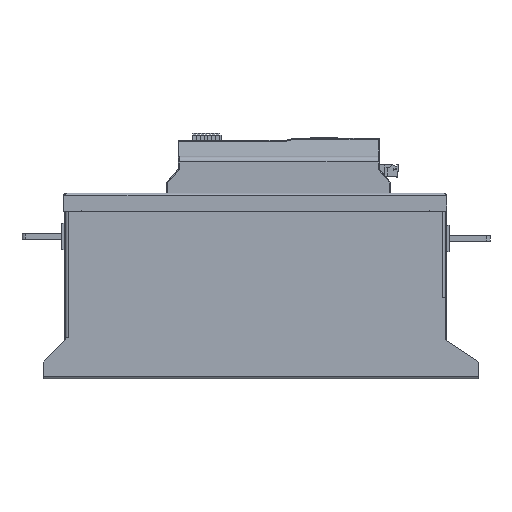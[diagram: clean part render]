
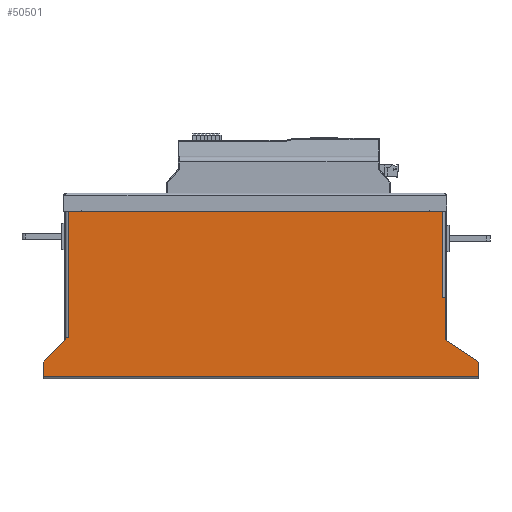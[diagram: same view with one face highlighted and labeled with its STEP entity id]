
A CAD part, left-side view. The second image highlights one B-rep face of the part: STEP entity #50501.
In plain terms, the highlighted planar face has unit normal (-1, 0, 0).
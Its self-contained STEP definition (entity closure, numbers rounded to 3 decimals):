
#801 = DIRECTION ( 'NONE',  ( 0., 0., 1. ) ) ;
#2206 = CARTESIAN_POINT ( 'NONE',  ( 0., -345.6, 148.783 ) ) ;
#2719 = VERTEX_POINT ( 'NONE', #123641 ) ;
#3133 = LINE ( 'NONE', #50897, #117432 ) ;
#4872 = CARTESIAN_POINT ( 'NONE',  ( 0., -34.4, 148.75 ) ) ;
#5015 = VECTOR ( 'NONE', #56551, 1000. ) ;
#6871 = ORIENTED_EDGE ( 'NONE', *, *, #62354, .T. ) ;
#7263 = CARTESIAN_POINT ( 'NONE',  ( 0., -390., 1.2 ) ) ;
#7903 = LINE ( 'NONE', #78174, #57015 ) ;
#8072 = VECTOR ( 'NONE', #29598, 1000. ) ;
#8312 = LINE ( 'NONE', #47650, #57761 ) ;
#9977 = CARTESIAN_POINT ( 'NONE',  ( 0., -345.6, 148.75 ) ) ;
#10301 = ORIENTED_EDGE ( 'NONE', *, *, #124813, .T. ) ;
#11557 = ORIENTED_EDGE ( 'NONE', *, *, #119459, .T. ) ;
#12361 = PLANE ( 'NONE',  #53805 ) ;
#15228 = EDGE_CURVE ( 'NONE', #61955, #49554, #91236, .T. ) ;
#15390 = VERTEX_POINT ( 'NONE', #58283 ) ;
#17099 = VERTEX_POINT ( 'NONE', #105182 ) ;
#17949 = ORIENTED_EDGE ( 'NONE', *, *, #43097, .T. ) ;
#22942 = CARTESIAN_POINT ( 'NONE',  ( 0., -34.4, 148.783 ) ) ;
#23982 = VECTOR ( 'NONE', #105015, 1000. ) ;
#24033 = CARTESIAN_POINT ( 'NONE',  ( 0.001, -34.4, 148.8 ) ) ;
#28395 = VECTOR ( 'NONE', #86525, 1000. ) ;
#28645 = EDGE_CURVE ( 'NONE', #120951, #78741, #104853, .T. ) ;
#29305 = VECTOR ( 'NONE', #105484, 1000. ) ;
#29598 = DIRECTION ( 'NONE',  ( 0., 0., -1. ) ) ;
#31076 = CARTESIAN_POINT ( 'NONE',  ( 0., 0., 0. ) ) ;
#34926 = VERTEX_POINT ( 'NONE', #101773 ) ;
#35500 = CARTESIAN_POINT ( 'NONE',  ( 0., 0., 148.8 ) ) ;
#36145 = DIRECTION ( 'NONE',  ( 0., 1., 0. ) ) ;
#38200 = VECTOR ( 'NONE', #108497, 1000. ) ;
#38769 = ORIENTED_EDGE ( 'NONE', *, *, #51955, .T. ) ;
#38923 = LINE ( 'NONE', #78263, #38200 ) ;
#42243 = DIRECTION ( 'NONE',  ( 0., 1., 0. ) ) ;
#43097 = EDGE_CURVE ( 'NONE', #2719, #85563, #56127, .T. ) ;
#43637 = CARTESIAN_POINT ( 'NONE',  ( 0., -360., 71.3 ) ) ;
#47090 = VERTEX_POINT ( 'NONE', #109785 ) ;
#47245 = DIRECTION ( 'NONE',  ( 0., 0., 1. ) ) ;
#47650 = CARTESIAN_POINT ( 'NONE',  ( 0., -390., 0. ) ) ;
#48347 = LINE ( 'NONE', #117889, #8072 ) ;
#49554 = VERTEX_POINT ( 'NONE', #110794 ) ;
#49983 = VECTOR ( 'NONE', #96076, 1000. ) ;
#50501 = ADVANCED_FACE ( 'NONE', ( #100059 ), #12361, .T. ) ;
#50897 = CARTESIAN_POINT ( 'NONE',  ( 0., 6.9, 6.9 ) ) ;
#51489 = ORIENTED_EDGE ( 'NONE', *, *, #95332, .T. ) ;
#51692 = LINE ( 'NONE', #111566, #118868 ) ;
#51955 = EDGE_CURVE ( 'NONE', #83312, #15390, #86239, .T. ) ;
#52206 = VERTEX_POINT ( 'NONE', #64161 ) ;
#52545 = CARTESIAN_POINT ( 'NONE',  ( 0., -357.6, 148.8 ) ) ;
#53805 = AXIS2_PLACEMENT_3D ( 'NONE', #31076, #71093, #801 ) ;
#56127 = LINE ( 'NONE', #56766, #49983 ) ;
#56140 = LINE ( 'NONE', #35500, #71578 ) ;
#56551 = DIRECTION ( 'NONE',  ( 0., 1., 0. ) ) ;
#56766 = CARTESIAN_POINT ( 'NONE',  ( 0., -360., 0. ) ) ;
#57015 = VECTOR ( 'NONE', #47245, 1000. ) ;
#57761 = VECTOR ( 'NONE', #86999, 1000. ) ;
#58106 = ORIENTED_EDGE ( 'NONE', *, *, #65937, .T. ) ;
#58283 = CARTESIAN_POINT ( 'NONE',  ( 0., -22.4, 35.8 ) ) ;
#59110 = CARTESIAN_POINT ( 'NONE',  ( 0., -345.6, 148.75 ) ) ;
#61955 = VERTEX_POINT ( 'NONE', #59110 ) ;
#62354 = EDGE_CURVE ( 'NONE', #77416, #120951, #7903, .T. ) ;
#63390 = EDGE_CURVE ( 'NONE', #17099, #77155, #51692, .T. ) ;
#63848 = CARTESIAN_POINT ( 'NONE',  ( 0., 0., 35.8 ) ) ;
#64161 = CARTESIAN_POINT ( 'NONE',  ( 0., 0., 13.8 ) ) ;
#65937 = EDGE_CURVE ( 'NONE', #78741, #61955, #107345, .T. ) ;
#68153 = CARTESIAN_POINT ( 'NONE',  ( 0., -22.4, 148.8 ) ) ;
#71093 = DIRECTION ( 'NONE',  ( -1., 0., 0. ) ) ;
#71578 = VECTOR ( 'NONE', #36145, 1000. ) ;
#72818 = ORIENTED_EDGE ( 'NONE', *, *, #15228, .T. ) ;
#73386 = EDGE_CURVE ( 'NONE', #88393, #83312, #56140, .T. ) ;
#74314 = B_SPLINE_CURVE_WITH_KNOTS ( 'NONE', 3,
 ( #4872, #82297, #22942, #74536 ),
 .UNSPECIFIED., .F., .F.,
 ( 4, 4 ),
 ( 0., 1. ),
 .UNSPECIFIED. ) ;
#74536 = CARTESIAN_POINT ( 'NONE',  ( 0.001, -34.4, 148.8 ) ) ;
#77155 = VERTEX_POINT ( 'NONE', #7263 ) ;
#77416 = VERTEX_POINT ( 'NONE', #101891 ) ;
#77727 = EDGE_CURVE ( 'NONE', #47090, #52206, #3133, .T. ) ;
#78113 = CARTESIAN_POINT ( 'NONE',  ( 0., 0., 71.3 ) ) ;
#78174 = CARTESIAN_POINT ( 'NONE',  ( 0., -357.6, 71.3 ) ) ;
#78263 = CARTESIAN_POINT ( 'NONE',  ( 0., -20., 0. ) ) ;
#78741 = VERTEX_POINT ( 'NONE', #99874 ) ;
#80335 = CARTESIAN_POINT ( 'NONE',  ( 0., -345.6, 148.75 ) ) ;
#81199 = VECTOR ( 'NONE', #42243, 1000. ) ;
#81893 = ORIENTED_EDGE ( 'NONE', *, *, #63390, .T. ) ;
#82297 = CARTESIAN_POINT ( 'NONE',  ( 0., -34.4, 148.767 ) ) ;
#82553 = ORIENTED_EDGE ( 'NONE', *, *, #107711, .T. ) ;
#83312 = VERTEX_POINT ( 'NONE', #84477 ) ;
#83867 = LINE ( 'NONE', #92214, #102781 ) ;
#84378 = EDGE_CURVE ( 'NONE', #89702, #2719, #83867, .T. ) ;
#84477 = CARTESIAN_POINT ( 'NONE',  ( 0., -22.4, 148.8 ) ) ;
#84499 = DIRECTION ( 'NONE',  ( 0., 0.832, 0.555 ) ) ;
#85563 = VERTEX_POINT ( 'NONE', #43637 ) ;
#86239 = LINE ( 'NONE', #68153, #29305 ) ;
#86525 = DIRECTION ( 'NONE',  ( 0., 1., 0. ) ) ;
#86853 = CARTESIAN_POINT ( 'NONE',  ( 0., 0., 148.8 ) ) ;
#86999 = DIRECTION ( 'NONE',  ( 0., 0., 1. ) ) ;
#88393 = VERTEX_POINT ( 'NONE', #24033 ) ;
#88837 = CARTESIAN_POINT ( 'NONE',  ( 0., -390., 13.8 ) ) ;
#89702 = VERTEX_POINT ( 'NONE', #88837 ) ;
#90556 = CARTESIAN_POINT ( 'NONE',  ( 0.001, -345.6, 148.8 ) ) ;
#91236 = LINE ( 'NONE', #80335, #81199 ) ;
#92214 = CARTESIAN_POINT ( 'NONE',  ( 0., -126.369, 189.554 ) ) ;
#95332 = EDGE_CURVE ( 'NONE', #34926, #47090, #38923, .T. ) ;
#96076 = DIRECTION ( 'NONE',  ( 0., 0., 1. ) ) ;
#98310 = CARTESIAN_POINT ( 'NONE',  ( 0., -345.6, 148.767 ) ) ;
#98666 = EDGE_LOOP ( 'NONE', ( #112232, #38769, #82553, #51489, #111672, #120162, #81893, #10301, #102754, #17949, #119529, #6871, #104002, #58106, #72818, #11557 ) ) ;
#99874 = CARTESIAN_POINT ( 'NONE',  ( 0.001, -345.6, 148.8 ) ) ;
#100059 = FACE_OUTER_BOUND ( 'NONE', #98666, .T. ) ;
#101272 = DIRECTION ( 'NONE',  ( 0., -1., 0. ) ) ;
#101773 = CARTESIAN_POINT ( 'NONE',  ( 0., -20., 35.8 ) ) ;
#101891 = CARTESIAN_POINT ( 'NONE',  ( 0., -357.6, 71.3 ) ) ;
#102483 = LINE ( 'NONE', #63848, #23982 ) ;
#102754 = ORIENTED_EDGE ( 'NONE', *, *, #84378, .T. ) ;
#102781 = VECTOR ( 'NONE', #84499, 1000. ) ;
#104002 = ORIENTED_EDGE ( 'NONE', *, *, #28645, .T. ) ;
#104853 = LINE ( 'NONE', #86853, #5015 ) ;
#105015 = DIRECTION ( 'NONE',  ( 0., 1., 0. ) ) ;
#105182 = CARTESIAN_POINT ( 'NONE',  ( 0., 0., 1.2 ) ) ;
#105484 = DIRECTION ( 'NONE',  ( 0., 0., -1. ) ) ;
#107345 = B_SPLINE_CURVE_WITH_KNOTS ( 'NONE', 3,
 ( #90556, #2206, #98310, #9977 ),
 .UNSPECIFIED., .F., .F.,
 ( 4, 4 ),
 ( 0., 1. ),
 .UNSPECIFIED. ) ;
#107711 = EDGE_CURVE ( 'NONE', #15390, #34926, #102483, .T. ) ;
#108497 = DIRECTION ( 'NONE',  ( 0., 0., -1. ) ) ;
#109785 = CARTESIAN_POINT ( 'NONE',  ( 0., -20., 33.8 ) ) ;
#110794 = CARTESIAN_POINT ( 'NONE',  ( 0., -34.4, 148.75 ) ) ;
#111105 = EDGE_CURVE ( 'NONE', #52206, #17099, #48347, .T. ) ;
#111566 = CARTESIAN_POINT ( 'NONE',  ( 0., 0., 1.2 ) ) ;
#111672 = ORIENTED_EDGE ( 'NONE', *, *, #77727, .T. ) ;
#112232 = ORIENTED_EDGE ( 'NONE', *, *, #73386, .T. ) ;
#117432 = VECTOR ( 'NONE', #119167, 1000. ) ;
#117889 = CARTESIAN_POINT ( 'NONE',  ( 0., 0., 0. ) ) ;
#118868 = VECTOR ( 'NONE', #101272, 1000. ) ;
#119167 = DIRECTION ( 'NONE',  ( 0., 0.707, -0.707 ) ) ;
#119459 = EDGE_CURVE ( 'NONE', #49554, #88393, #74314, .T. ) ;
#119529 = ORIENTED_EDGE ( 'NONE', *, *, #121499, .T. ) ;
#120162 = ORIENTED_EDGE ( 'NONE', *, *, #111105, .T. ) ;
#120951 = VERTEX_POINT ( 'NONE', #52545 ) ;
#121499 = EDGE_CURVE ( 'NONE', #85563, #77416, #125755, .T. ) ;
#123641 = CARTESIAN_POINT ( 'NONE',  ( 0., -360., 33.8 ) ) ;
#124813 = EDGE_CURVE ( 'NONE', #77155, #89702, #8312, .T. ) ;
#125755 = LINE ( 'NONE', #78113, #28395 ) ;
